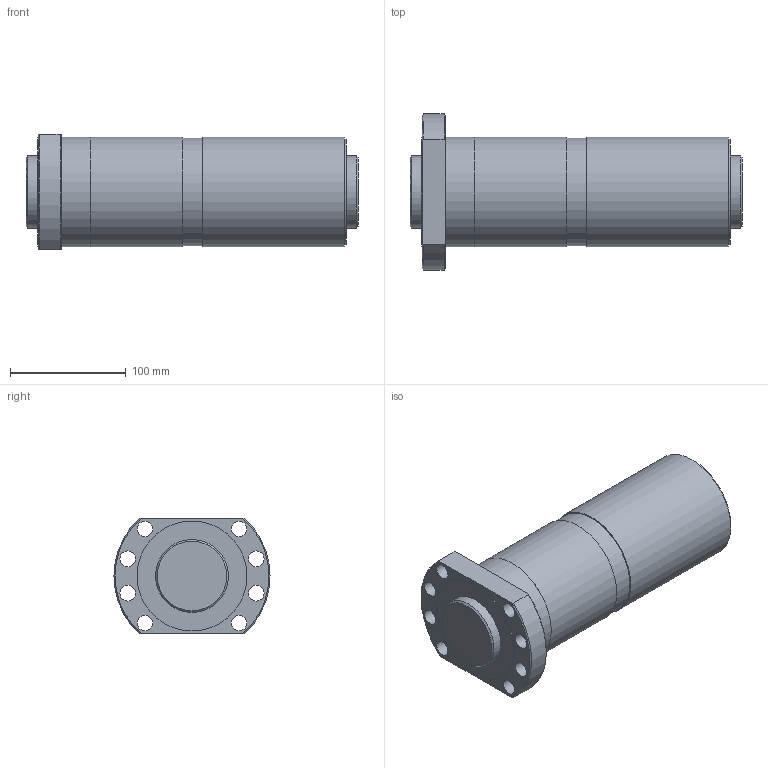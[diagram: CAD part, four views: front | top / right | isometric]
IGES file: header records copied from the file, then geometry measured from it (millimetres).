
Start section: Data from Parasolid IGES Translator 26.0.171, Copyright(c) 2006 Siemens PLM Software. All Rights Reserved.
Global section: file name: SDAN6340VX-3G0+287LC0(0G000).igs; native system: By Siemens PLM Incorporated; preprocessor: XPlus GENERIC/IGES 26.0.171; author: Noname; organization: Noname; date: 20240704.102350; units: millimetre
Bounding box: 287 x 135 x 100 mm (x, y, z)
Surface area: 221376 mm2 (no closed solid volume)
Topology: 0 solids, 0 shells, 41 faces, 178 edges, 154 vertices
Faces by surface type: revolution 28, extrusion 13
